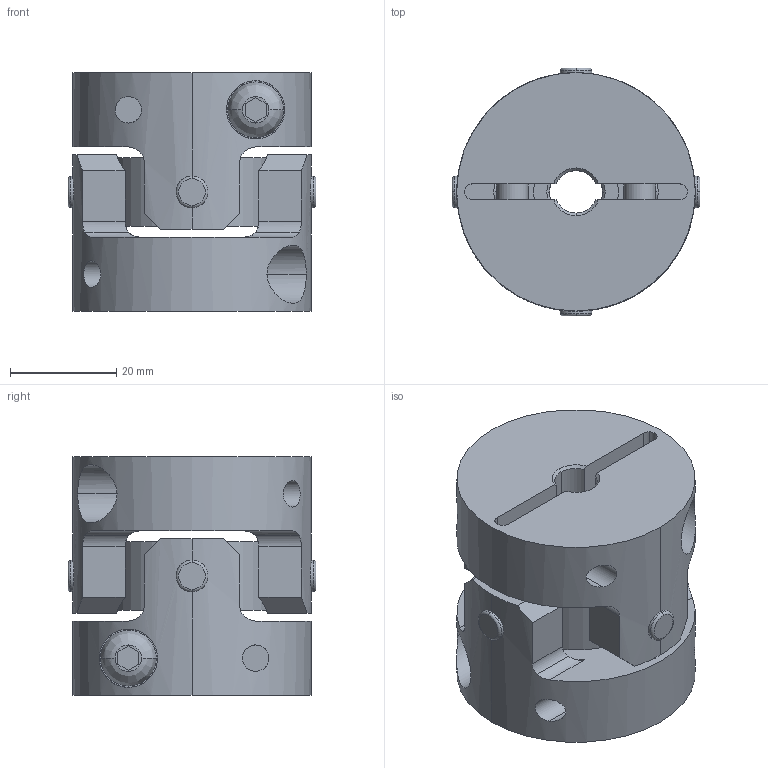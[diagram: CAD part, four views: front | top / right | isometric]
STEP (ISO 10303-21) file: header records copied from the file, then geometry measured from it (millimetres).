
FILE_DESCRIPTION((''),'2;1');
FILE_NAME('UA-45C-8×10.stp','2013-05-22T10:12:42',(''),(''),'AutoCAD STEP 2000i','AutoCAD 2000i',', , ');
FILE_SCHEMA(('CONFIG_CONTROL_DESIGN'));
Length unit declared in the file: millimetre
Products named in the file (6): UA-45C-8×8; 忣兜1; UA-4502-D08-1; BTN-M6; UA-4502-D08; UA45-SEN
Assembly tree (6 placements, depth 3):
  UA-45C-8×8
    忣兜1
    UA-4502-D08-1
      BTN-M6
    UA-4502-D08
      BTN-M6
    UA45-SEN
Bounding box: 46.73 x 46.73 x 45 mm (x, y, z)
Volume: 51384.5 mm3; surface area: 20344.3 mm2
Topology: 1 solids, 1 shells, 206 faces, 554 edges, 364 vertices
Faces by surface type: cylinder 96, plane 78, cone 16, bspline 8, torus 8
Entity records: 8523 total; most frequent: CARTESIAN_POINT 3207, ORIENTED_EDGE 1108, DIRECTION 1064, EDGE_CURVE 554, AXIS2_PLACEMENT_3D 409, VERTEX_POINT 364, VECTOR 246, LINE 246
